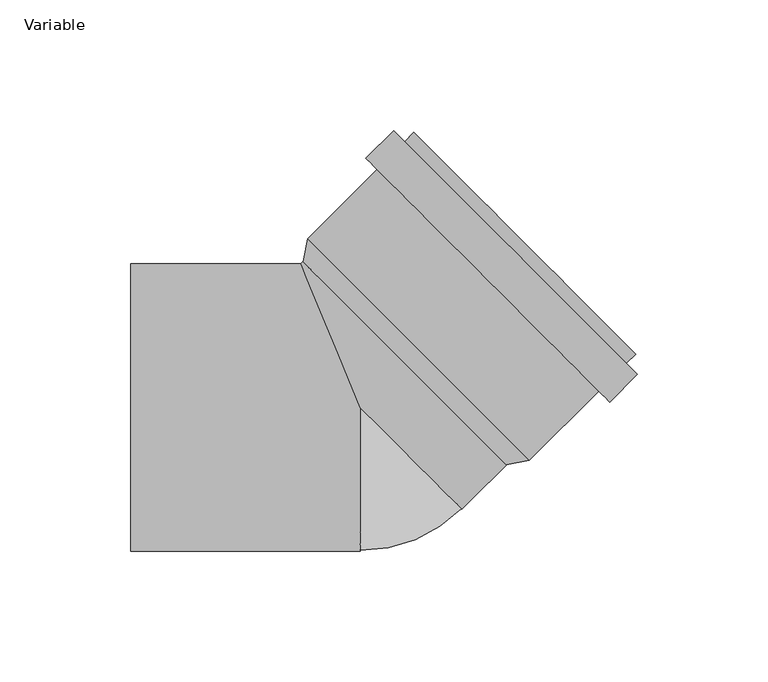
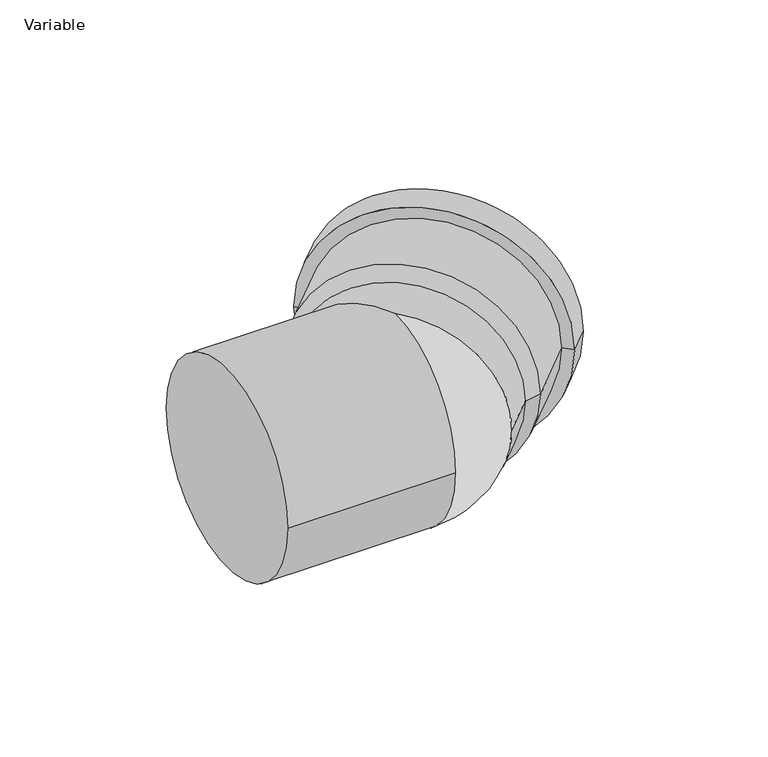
"""IFC4 building model written with IfcOpenShell, lengths in millimetres: pipe fitting geometry, AliaxisFR_Friaphon_ElbowMF_FR : Variable."""

from ifc_helpers import new_model, si_unit, point, frame, origin, place, context, project, spatial, polyline, circle_curve, ellipse_curve, trimmed, source, transform, mapped, element, save
from ifc_brep_helpers import plane_surface, cylinder_surface, revolved_surface, advanced_brep


def variable_90cf6efd(model_context):
    return source(origin(), model_context, "Body", "AdvancedBrep", [
        advanced_brep(
        [(105.3589104, 20.5060967, 0.0), (20.5060967, 105.3589104, 0.0), (24.0416306, 101.8233765, 0.0), (101.8233765, 24.0416306, 0.0), (95.4594155, 2.1213203, 0.0), (2.1213203, 95.4594155, 0.0), (12.7279221, 106.0660172, 0.0), (106.0660172, 12.7279221, 0.0), (91.2167748, 6.363961, 0.0), (6.363961, 91.2167748, 0.0), (64.7002705, -20.1525433, 0.0), (-20.1525433, 64.7002705, 0.0), (-21.9203102, 55.8614357, 0.0), (55.8614357, -21.9203102, 0.0), (101.8233765, 16.9705627, 0.0), (16.9705627, 101.8233765, 0.0)],
        [
            (0, 1, circle_curve(frame((62.9325035, 62.9325035, 0.0), z_axis=(0.707106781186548, 0.7071067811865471, 0.0), x_axis=(-0.7071067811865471, 0.707106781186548, 0.0)), 60.0)),
            (1, 2),
            (2, 3, circle_curve(frame((62.9325035, 62.9325035, 0.0), z_axis=(-0.707106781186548, -0.7071067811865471, 0.0), x_axis=(-0.7071067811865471, 0.707106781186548, 0.0)), 55.0)),
            (3, 0),
            (1, 0, circle_curve(frame((62.9325035, 62.9325035, 0.0), z_axis=(0.707106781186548, 0.7071067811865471, 0.0), x_axis=(-0.7071067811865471, 0.707106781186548, 0.0)), 60.0)),
            (3, 2, circle_curve(frame((62.9325035, 62.9325035, 0.0), z_axis=(-0.707106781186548, -0.7071067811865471, 0.0), x_axis=(-0.7071067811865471, 0.707106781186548, 0.0)), 55.0)),
            (4, 5, circle_curve(frame((48.7903679, 48.7903679, 0.0), z_axis=(0.707106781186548, 0.7071067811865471, 0.0), x_axis=(-0.7071067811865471, 0.707106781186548, 0.0)), 66.0)),
            (5, 6),
            (6, 7, circle_curve(frame((59.3969696, 59.3969696, 0.0), z_axis=(-0.707106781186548, -0.7071067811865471, 0.0), x_axis=(-0.7071067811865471, 0.707106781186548, 0.0)), 66.0)),
            (7, 4),
            (5, 4, circle_curve(frame((48.7903679, 48.7903679, 0.0), z_axis=(0.707106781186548, 0.7071067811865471, 0.0), x_axis=(-0.7071067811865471, 0.707106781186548, 0.0)), 66.0)),
            (7, 6, circle_curve(frame((59.3969696, 59.3969696, 0.0), z_axis=(-0.707106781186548, -0.7071067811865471, 0.0), x_axis=(-0.7071067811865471, 0.707106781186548, 0.0)), 66.0)),
            (8, 9, circle_curve(frame((48.7903679, 48.7903679, 0.0), z_axis=(0.707106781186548, 0.7071067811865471, 0.0), x_axis=(-0.7071067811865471, 0.707106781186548, 0.0)), 60.0)),
            (9, 5),
            (4, 8),
            (9, 8, circle_curve(frame((48.7903679, 48.7903679, 0.0), z_axis=(0.707106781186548, 0.7071067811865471, 0.0), x_axis=(-0.7071067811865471, 0.707106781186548, 0.0)), 60.0)),
            (10, 11, circle_curve(frame((22.2738636, 22.2738636, 0.0), z_axis=(0.707106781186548, 0.7071067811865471, 0.0), x_axis=(-0.7071067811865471, 0.707106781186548, 0.0)), 60.0)),
            (11, 9),
            (8, 10),
            (11, 10, circle_curve(frame((22.2738636, 22.2738636, 0.0), z_axis=(0.707106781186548, 0.7071067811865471, 0.0), x_axis=(-0.7071067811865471, 0.707106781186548, 0.0)), 60.0)),
            (2, 12),
            (12, 13, circle_curve(frame((16.9705627, 16.9705627, 0.0), z_axis=(-0.707106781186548, -0.7071067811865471, 0.0), x_axis=(-0.7071067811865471, 0.707106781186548, 0.0)), 55.0)),
            (13, 3),
            (13, 12, circle_curve(frame((16.9705627, 16.9705627, 0.0), z_axis=(-0.707106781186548, -0.7071067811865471, 0.0), x_axis=(-0.7071067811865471, 0.707106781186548, 0.0)), 55.0)),
            (12, 11),
            (10, 13),
            (14, 15, circle_curve(frame((59.3969696, 59.3969696, 0.0), z_axis=(0.707106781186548, 0.7071067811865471, 0.0), x_axis=(-0.7071067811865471, 0.707106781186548, 0.0)), 60.0)),
            (15, 1),
            (0, 14),
            (15, 14, circle_curve(frame((59.3969696, 59.3969696, 0.0), z_axis=(0.707106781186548, 0.7071067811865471, 0.0), x_axis=(-0.7071067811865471, 0.707106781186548, 0.0)), 60.0)),
            (6, 15),
            (14, 7),
        ],
        [
            plane_surface(frame((62.9325035, 62.9325035, 0.0), z_axis=(0.707106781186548, 0.7071067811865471, 0.0), x_axis=(-0.7071067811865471, 0.707106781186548, 0.0))),
            cylinder_surface(frame((16.9705627, 16.9705627, 0.0), z_axis=(-0.707106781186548, -0.7071067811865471, 0.0), x_axis=(-0.7071067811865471, 0.707106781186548, 0.0)), 66.0),
            plane_surface(frame((48.7903679, 48.7903679, 0.0), z_axis=(-0.707106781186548, -0.7071067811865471, 0.0), x_axis=(-0.7071067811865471, 0.707106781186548, 0.0))),
            cylinder_surface(frame((16.9705627, 16.9705627, 0.0), z_axis=(-0.707106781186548, -0.7071067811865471, 0.0), x_axis=(-0.7071067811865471, 0.707106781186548, 0.0)), 60.0),
            revolved_surface(polyline([(-21.920310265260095, 55.861435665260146, 0.0), (24.041630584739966, 101.82337651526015, 0.0)]), (16.9705627, 16.9705627, 0.0), (-0.707106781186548, -0.7071067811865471, 0.0)),
            revolved_surface(polyline([(-20.1525433, 64.7002705, 0.0), (-21.9203102, 55.8614357, 0.0)]), (16.9705627, 16.9705627, 0.0), (-0.707106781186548, -0.7071067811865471, 0.0)),
            plane_surface(frame((59.3969696, 59.3969696, 0.0), z_axis=(0.707106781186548, 0.7071067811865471, 0.0), x_axis=(-0.7071067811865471, 0.707106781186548, 0.0))),
        ],
        [
            (0, [[1, 2, 3, 4]]),
            (0, [[5, -4, 6, -2]]),
            (1, [[7, 8, 9, 10]]),
            (1, [[11, -10, 12, -8]]),
            (2, [[13, 14, -7, 15]]),
            (2, [[16, -15, -11, -14]]),
            (3, [[17, 18, -13, 19]]),
            (3, [[20, -19, -16, -18]]),
            (4, [[-3, 21, 22, 23]]),
            (4, [[-6, -23, 24, -21]]),
            (5, [[-22, 25, -17, 26]]),
            (5, [[-24, -26, -20, -25]]),
            (3, [[27, 28, -1, 29]]),
            (3, [[30, -29, -5, -28]]),
            (6, [[-9, 31, -27, 32]]),
            (6, [[-12, -32, -30, -31]]),
        ],
    ),
        advanced_brep(
        [(-18.3847763, 59.3969696, 0.0), (59.3969696, -18.3847763, 0.0), (38.890873, -38.890873, 0.0), (-22.7817459, 55.0, 0.0), (0.0, 0.0, 55.0), (0.0, 0.0, -55.0), (-88.0, -55.0, 0.0), (-88.0, 55.0, 0.0), (0.0, -55.0, 0.0)],
        [
            (0, 1, circle_curve(frame((20.5060967, 20.5060967, 0.0), z_axis=(0.7071067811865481, 0.707106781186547, 0.0), x_axis=(-0.707106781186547, 0.7071067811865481, 0.0)), 55.0)),
            (1, 0, circle_curve(frame((20.5060967, 20.5060967, 0.0), z_axis=(0.7071067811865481, 0.707106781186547, 0.0), x_axis=(-0.707106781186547, 0.7071067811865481, 0.0)), 55.0)),
            (2, 1),
            (0, 3),
            (3, 4, ellipse_curve(frame((0.0, 0.0, 0.0), z_axis=(0.923879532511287, 0.38268343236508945, 0.0), x_axis=(0.38268343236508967, -0.923879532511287, 0.0)), 59.531571, 55.0)),
            (4, 2, circle_curve(frame((0.0, 0.0, 0.0), z_axis=(0.7071067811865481, 0.707106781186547, 0.0), x_axis=(-0.707106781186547, 0.7071067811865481, 0.0)), 55.0)),
            (2, 5, circle_curve(frame((0.0, 0.0, 0.0), z_axis=(0.7071067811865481, 0.707106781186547, 0.0), x_axis=(-0.707106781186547, 0.7071067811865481, 0.0)), 55.0)),
            (5, 3, ellipse_curve(frame((0.0, 0.0, 0.0), z_axis=(0.923879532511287, 0.38268343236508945, 0.0), x_axis=(0.38268343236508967, -0.923879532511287, 0.0)), 59.531571, 55.0)),
            (6, 7, circle_curve(frame((-88.0, 0.0, 0.0), z_axis=(-1.0, 0.0, 0.0), x_axis=(0.0, 1.0, 0.0)), 55.0)),
            (7, 6, circle_curve(frame((-88.0, 0.0, 0.0), z_axis=(-1.0, 0.0, 0.0), x_axis=(0.0, 1.0, 0.0)), 55.0)),
            (6, 8),
            (8, 4, circle_curve(frame((0.0, 0.0, 0.0), z_axis=(-1.0, 0.0, 0.0), x_axis=(0.0, 1.0, 0.0)), 55.0)),
            (3, 7),
            (5, 8, circle_curve(frame((0.0, 0.0, 0.0), z_axis=(-1.0, 0.0, 0.0), x_axis=(0.0, 1.0, 0.0)), 55.0)),
        ],
        [
            plane_surface(frame((20.5060967, 20.5060967, 0.0), z_axis=(0.7071067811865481, 0.707106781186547, 0.0), x_axis=(0.0, 0.0, 1.0))),
            cylinder_surface(frame((0.0, 0.0, 0.0), z_axis=(-0.7071067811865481, -0.707106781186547, 0.0), x_axis=(-0.707106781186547, 0.7071067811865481, 0.0)), 55.0),
            plane_surface(frame((-88.0, 0.0, 0.0), z_axis=(-1.0, 0.0, 0.0), x_axis=(0.0, 0.0, 1.0))),
            cylinder_surface(frame((-88.0, 0.0, 0.0), z_axis=(-1.0, 0.0, 0.0), x_axis=(0.0, 1.0, 0.0)), 55.0),
            revolved_surface(trimmed(ellipse_curve(frame((0.0, 0.0, 0.0), z_axis=(0.7071067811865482, 0.707106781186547, 0.0), x_axis=(-0.707106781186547, 0.7071067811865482, 0.0)), 55.0, 55.0), [point((0.0, 0.0, 55.0))], [point((0.0, 0.0, -55.0))], True, "CARTESIAN"), (0.0, 0.0, 55.0), (0.0, 0.0, -1.0)),
        ],
        [
            (0, [[1, 2]]),
            (1, [[3, -1, 4, 5, 6]]),
            (1, [[-2, -3, 7, 8, -4]]),
            (2, [[9, 10]]),
            (3, [[-9, 11, 12, -5, 13]]),
            (3, [[-10, -13, -8, 14, -11]]),
            (4, [[-12, -14, -7, -6]]),
        ],
    ),
    ])


if __name__ == "__main__":
    model = new_model("IFC4")
    model_context = context("Model", 3, world=origin())
    ifc_project = project(units=[si_unit("LENGTHUNIT", "METRE", prefix="MILLI")], contexts=[model_context])
    site = spatial("IfcSite", under=ifc_project)
    building = spatial("IfcBuilding", under=site)
    placement = place(None, origin())
    variable_shape = variable_90cf6efd(model_context)
    element("IfcPipeFitting", 1, ObjectType="AliaxisFR_Friaphon_ElbowMF_FR : Variable", at=placement, inside=building, context=model_context, shape_type="MappedRepresentation", body=[
        mapped(variable_shape, transform((0.0, 0.0, 0.0), x_axis=(1.0, 0.0, 0.0), y_axis=(0.0, 1.0, 0.0), z_axis=(0.0, 0.0, 1.0))),
    ])
    save(model, "model.ifc")
